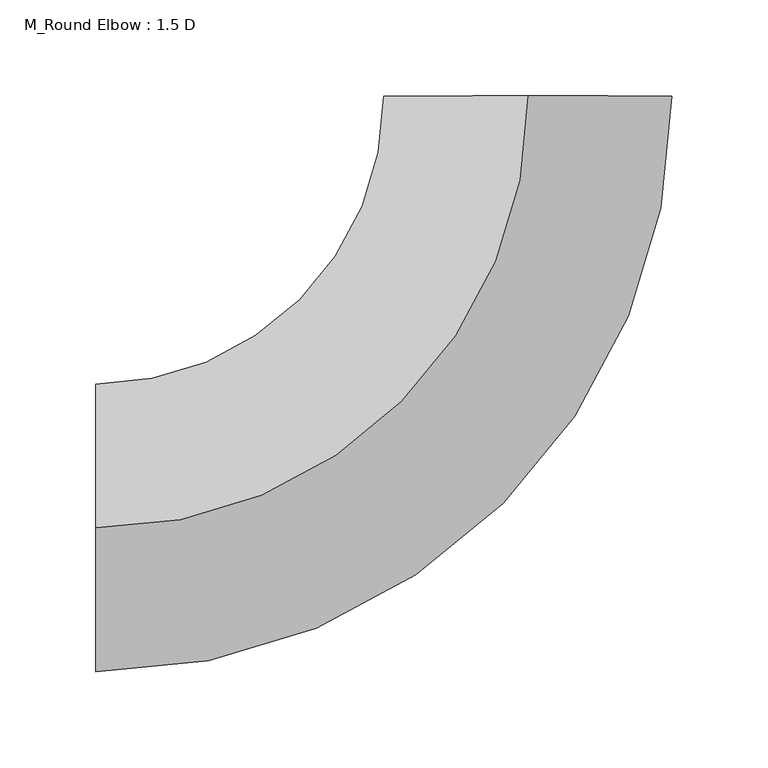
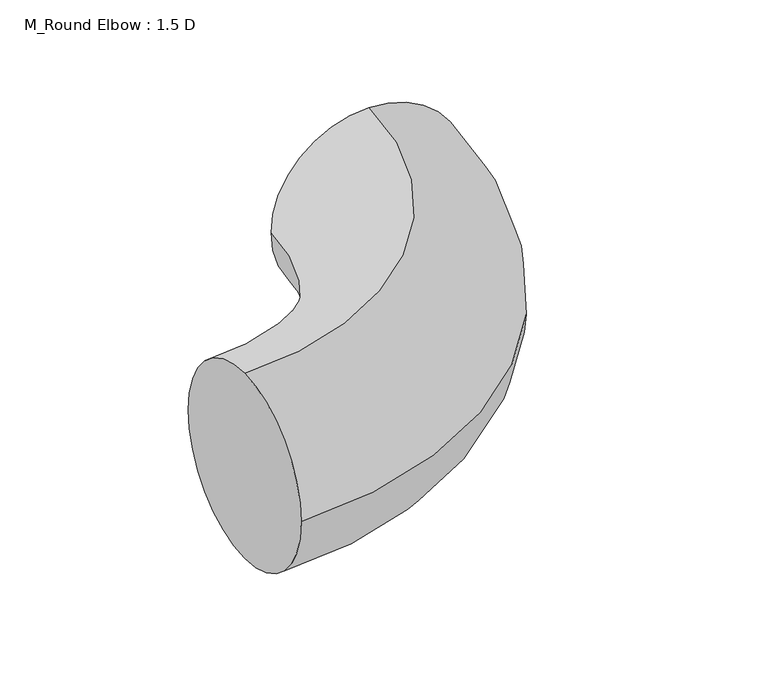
"""IFC4 building model written with IfcOpenShell, lengths in millimetres: duct fitting geometry, M_Round Elbow : 1.5 D."""

from ifc_helpers import new_model, si_unit, point, frame, origin, place, context, project, spatial, circle_curve, ellipse_curve, trimmed, source, transform, mapped, element, save
from ifc_brep_helpers import plane_surface, revolved_surface, advanced_brep


def m_round_elbow_1_5_d_fb64139c(model_context):
    return source(origin(), model_context, "Body", "AdvancedBrep", [
        advanced_brep(
        [(-225.0031071, 0.0, 75.0), (-225.0031071, 75.0, 0.0), (-225.0031071, 0.0, -75.0), (-225.0031071, -75.0, 0.0), (-0.0031071, 225.0031071, 75.0), (74.9968929, 225.0041428, 0.0), (-0.0031071, 225.0031071, -75.0), (-75.0031071, 225.0020714, 0.0)],
        [
            (0, 1, circle_curve(frame((-225.0031071, 0.0, 0.0), z_axis=(-1.0, 0.0, 0.0), x_axis=(0.0, 1.0, 0.0)), 75.0)),
            (1, 2, circle_curve(frame((-225.0031071, 0.0, 0.0), z_axis=(-1.0, 0.0, 0.0), x_axis=(0.0, 1.0, 0.0)), 75.0)),
            (2, 3, circle_curve(frame((-225.0031071, 0.0, 0.0), z_axis=(-1.0, 0.0, 0.0), x_axis=(0.0, 1.0, 0.0)), 75.0)),
            (3, 0, circle_curve(frame((-225.0031071, 0.0, 0.0), z_axis=(-1.0, 0.0, 0.0), x_axis=(0.0, 1.0, 0.0)), 75.0)),
            (4, 5, circle_curve(frame((-0.0031071, 225.0031071, 0.0), z_axis=(-1.3809308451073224e-05, 0.9999999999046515, 0.0), x_axis=(-0.9999999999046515, -1.3809308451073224e-05, 0.0)), 75.0)),
            (5, 6, circle_curve(frame((-0.0031071, 225.0031071, 0.0), z_axis=(-1.3809308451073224e-05, 0.9999999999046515, 0.0), x_axis=(-0.9999999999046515, -1.3809308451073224e-05, 0.0)), 75.0)),
            (6, 7, circle_curve(frame((-0.0031071, 225.0031071, 0.0), z_axis=(-1.3809308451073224e-05, 0.9999999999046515, 0.0), x_axis=(-0.9999999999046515, -1.3809308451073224e-05, 0.0)), 75.0)),
            (7, 4, circle_curve(frame((-0.0031071, 225.0031071, 0.0), z_axis=(-1.3809308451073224e-05, 0.9999999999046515, 0.0), x_axis=(-0.9999999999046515, -1.3809308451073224e-05, 0.0)), 75.0)),
            (7, 1, circle_curve(frame((-225.0031071, 225.0, 0.0), z_axis=(0.0, 0.0, -1.0), x_axis=(0.0, -1.0, 0.0)), 150.0)),
            (0, 4, circle_curve(frame((-225.0031071, 225.0, 75.0), z_axis=(0.0, 0.0, 1.0), x_axis=(0.0, -1.0, 0.0)), 225.0)),
            (6, 2, circle_curve(frame((-225.0031071, 225.0, -75.0), z_axis=(0.0, 0.0, -1.0), x_axis=(0.0, -1.0, 0.0)), 225.0)),
            (5, 3, circle_curve(frame((-225.0031071, 225.0, 0.0), z_axis=(0.0, 0.0, -1.0), x_axis=(0.0, -1.0, 0.0)), 300.0)),
        ],
        [
            plane_surface(frame((-225.0031071, 0.0, 0.0), z_axis=(-1.0, 0.0, 0.0), x_axis=(0.0, 0.0, 1.0))),
            plane_surface(frame((-0.0031071, 225.0031071, 0.0), z_axis=(-1.380930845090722e-05, 0.9999999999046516, 0.0), x_axis=(0.0, 0.0, 1.0))),
            revolved_surface(trimmed(ellipse_curve(frame((-225.0031071, 0.0, 0.0), z_axis=(-1.0, 0.0, 0.0), x_axis=(0.0, 1.0, 0.0)), 75.0, 75.0), [point((-225.0031071, 0.0, 75.0))], [point((-225.0031071, 75.0, 0.0))], True, "CARTESIAN"), (-225.0031071, 225.0, 0.0), (0.0, 0.0, 1.0)),
            revolved_surface(trimmed(ellipse_curve(frame((-225.0031071, 0.0, 0.0), z_axis=(-1.0, 0.0, 0.0), x_axis=(0.0, 1.0, 0.0)), 75.0, 75.0), [point((-225.0031071, 75.0, 0.0))], [point((-225.0031071, 0.0, -75.0))], True, "CARTESIAN"), (-225.0031071, 225.0, 0.0), (0.0, 0.0, 1.0)),
            revolved_surface(trimmed(ellipse_curve(frame((-225.0031071, 0.0, 0.0), z_axis=(-1.0, 0.0, 0.0), x_axis=(0.0, 1.0, 0.0)), 75.0, 75.0), [point((-225.0031071, 0.0, -75.0))], [point((-225.0031071, -75.0, 0.0))], True, "CARTESIAN"), (-225.0031071, 225.0, 0.0), (0.0, 0.0, 1.0)),
            revolved_surface(trimmed(ellipse_curve(frame((-225.0031071, 0.0, 0.0), z_axis=(-1.0, 0.0, 0.0), x_axis=(0.0, 1.0, 0.0)), 75.0, 75.0), [point((-225.0031071, -75.0, 0.0))], [point((-225.0031071, 0.0, 75.0))], True, "CARTESIAN"), (-225.0031071, 225.0, 0.0), (0.0, 0.0, 1.0)),
        ],
        [
            (0, [[1, 2, 3, 4]]),
            (1, [[5, 6, 7, 8]]),
            (2, [[9, -1, 10, -8]]),
            (3, [[11, -2, -9, -7]]),
            (4, [[12, -3, -11, -6]]),
            (5, [[-10, -4, -12, -5]]),
        ],
    ),
        advanced_brep(
        [(-225.0031071, 0.0, 75.0), (-225.0031071, 75.0, 0.0), (-225.0031071, 0.0, -75.0), (-225.0031071, -75.0, 0.0), (-0.0031071, 225.0031071, 75.0), (74.9968929, 225.0041428, 0.0), (-0.0031071, 225.0031071, -75.0), (-75.0031071, 225.0020714, 0.0)],
        [
            (0, 1, circle_curve(frame((-225.0031071, 0.0, 0.0), z_axis=(-1.0, 0.0, 0.0), x_axis=(0.0, 1.0, 0.0)), 75.0)),
            (1, 2, circle_curve(frame((-225.0031071, 0.0, 0.0), z_axis=(-1.0, 0.0, 0.0), x_axis=(0.0, 1.0, 0.0)), 75.0)),
            (2, 3, circle_curve(frame((-225.0031071, 0.0, 0.0), z_axis=(-1.0, 0.0, 0.0), x_axis=(0.0, 1.0, 0.0)), 75.0)),
            (3, 0, circle_curve(frame((-225.0031071, 0.0, 0.0), z_axis=(-1.0, 0.0, 0.0), x_axis=(0.0, 1.0, 0.0)), 75.0)),
            (4, 5, circle_curve(frame((-0.0031071, 225.0031071, 0.0), z_axis=(-1.3809308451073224e-05, 0.9999999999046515, 0.0), x_axis=(-0.9999999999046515, -1.3809308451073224e-05, 0.0)), 75.0)),
            (5, 6, circle_curve(frame((-0.0031071, 225.0031071, 0.0), z_axis=(-1.3809308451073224e-05, 0.9999999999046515, 0.0), x_axis=(-0.9999999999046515, -1.3809308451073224e-05, 0.0)), 75.0)),
            (6, 7, circle_curve(frame((-0.0031071, 225.0031071, 0.0), z_axis=(-1.3809308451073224e-05, 0.9999999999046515, 0.0), x_axis=(-0.9999999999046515, -1.3809308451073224e-05, 0.0)), 75.0)),
            (7, 4, circle_curve(frame((-0.0031071, 225.0031071, 0.0), z_axis=(-1.3809308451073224e-05, 0.9999999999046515, 0.0), x_axis=(-0.9999999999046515, -1.3809308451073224e-05, 0.0)), 75.0)),
            (7, 1, circle_curve(frame((-225.0031071, 225.0, 0.0), z_axis=(0.0, 0.0, -1.0), x_axis=(0.0, -1.0, 0.0)), 150.0)),
            (0, 4, circle_curve(frame((-225.0031071, 225.0, 75.0), z_axis=(0.0, 0.0, 1.0), x_axis=(0.0, -1.0, 0.0)), 225.0)),
            (6, 2, circle_curve(frame((-225.0031071, 225.0, -75.0), z_axis=(0.0, 0.0, -1.0), x_axis=(0.0, -1.0, 0.0)), 225.0)),
            (5, 3, circle_curve(frame((-225.0031071, 225.0, 0.0), z_axis=(0.0, 0.0, -1.0), x_axis=(0.0, -1.0, 0.0)), 300.0)),
        ],
        [
            plane_surface(frame((-225.0031071, 0.0, 0.0), z_axis=(-1.0, 0.0, 0.0), x_axis=(0.0, 0.0, 1.0))),
            plane_surface(frame((-0.0031071, 225.0031071, 0.0), z_axis=(-1.380930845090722e-05, 0.9999999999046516, 0.0), x_axis=(0.0, 0.0, 1.0))),
            revolved_surface(trimmed(ellipse_curve(frame((-225.0031071, 0.0, 0.0), z_axis=(-1.0, 0.0, 0.0), x_axis=(0.0, 1.0, 0.0)), 75.0, 75.0), [point((-225.0031071, 0.0, 75.0))], [point((-225.0031071, 75.0, 0.0))], True, "CARTESIAN"), (-225.0031071, 225.0, 0.0), (0.0, 0.0, 1.0)),
            revolved_surface(trimmed(ellipse_curve(frame((-225.0031071, 0.0, 0.0), z_axis=(-1.0, 0.0, 0.0), x_axis=(0.0, 1.0, 0.0)), 75.0, 75.0), [point((-225.0031071, 75.0, 0.0))], [point((-225.0031071, 0.0, -75.0))], True, "CARTESIAN"), (-225.0031071, 225.0, 0.0), (0.0, 0.0, 1.0)),
            revolved_surface(trimmed(ellipse_curve(frame((-225.0031071, 0.0, 0.0), z_axis=(-1.0, 0.0, 0.0), x_axis=(0.0, 1.0, 0.0)), 75.0, 75.0), [point((-225.0031071, 0.0, -75.0))], [point((-225.0031071, -75.0, 0.0))], True, "CARTESIAN"), (-225.0031071, 225.0, 0.0), (0.0, 0.0, 1.0)),
            revolved_surface(trimmed(ellipse_curve(frame((-225.0031071, 0.0, 0.0), z_axis=(-1.0, 0.0, 0.0), x_axis=(0.0, 1.0, 0.0)), 75.0, 75.0), [point((-225.0031071, -75.0, 0.0))], [point((-225.0031071, 0.0, 75.0))], True, "CARTESIAN"), (-225.0031071, 225.0, 0.0), (0.0, 0.0, 1.0)),
        ],
        [
            (0, [[1, 2, 3, 4]]),
            (1, [[5, 6, 7, 8]]),
            (2, [[9, -1, 10, -8]]),
            (3, [[11, -2, -9, -7]]),
            (4, [[12, -3, -11, -6]]),
            (5, [[-10, -4, -12, -5]]),
        ],
    ),
        advanced_brep(
        [(-225.0031071, 0.0, 75.0), (-225.0031071, 75.0, 0.0), (-225.0031071, 0.0, -75.0), (-225.0031071, -75.0, 0.0), (-0.0031071, 225.0031071, 75.0), (74.9968929, 225.0041428, 0.0), (-0.0031071, 225.0031071, -75.0), (-75.0031071, 225.0020714, 0.0)],
        [
            (0, 1, circle_curve(frame((-225.0031071, 0.0, 0.0), z_axis=(-1.0, 0.0, 0.0), x_axis=(0.0, 1.0, 0.0)), 75.0)),
            (1, 2, circle_curve(frame((-225.0031071, 0.0, 0.0), z_axis=(-1.0, 0.0, 0.0), x_axis=(0.0, 1.0, 0.0)), 75.0)),
            (2, 3, circle_curve(frame((-225.0031071, 0.0, 0.0), z_axis=(-1.0, 0.0, 0.0), x_axis=(0.0, 1.0, 0.0)), 75.0)),
            (3, 0, circle_curve(frame((-225.0031071, 0.0, 0.0), z_axis=(-1.0, 0.0, 0.0), x_axis=(0.0, 1.0, 0.0)), 75.0)),
            (4, 5, circle_curve(frame((-0.0031071, 225.0031071, 0.0), z_axis=(-1.3809308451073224e-05, 0.9999999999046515, 0.0), x_axis=(-0.9999999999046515, -1.3809308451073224e-05, 0.0)), 75.0)),
            (5, 6, circle_curve(frame((-0.0031071, 225.0031071, 0.0), z_axis=(-1.3809308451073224e-05, 0.9999999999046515, 0.0), x_axis=(-0.9999999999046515, -1.3809308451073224e-05, 0.0)), 75.0)),
            (6, 7, circle_curve(frame((-0.0031071, 225.0031071, 0.0), z_axis=(-1.3809308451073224e-05, 0.9999999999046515, 0.0), x_axis=(-0.9999999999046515, -1.3809308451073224e-05, 0.0)), 75.0)),
            (7, 4, circle_curve(frame((-0.0031071, 225.0031071, 0.0), z_axis=(-1.3809308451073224e-05, 0.9999999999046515, 0.0), x_axis=(-0.9999999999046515, -1.3809308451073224e-05, 0.0)), 75.0)),
            (7, 1, circle_curve(frame((-225.0031071, 225.0, 0.0), z_axis=(0.0, 0.0, -1.0), x_axis=(0.0, -1.0, 0.0)), 150.0)),
            (0, 4, circle_curve(frame((-225.0031071, 225.0, 75.0), z_axis=(0.0, 0.0, 1.0), x_axis=(0.0, -1.0, 0.0)), 225.0)),
            (6, 2, circle_curve(frame((-225.0031071, 225.0, -75.0), z_axis=(0.0, 0.0, -1.0), x_axis=(0.0, -1.0, 0.0)), 225.0)),
            (5, 3, circle_curve(frame((-225.0031071, 225.0, 0.0), z_axis=(0.0, 0.0, -1.0), x_axis=(0.0, -1.0, 0.0)), 300.0)),
        ],
        [
            plane_surface(frame((-225.0031071, 0.0, 0.0), z_axis=(-1.0, 0.0, 0.0), x_axis=(0.0, 0.0, 1.0))),
            plane_surface(frame((-0.0031071, 225.0031071, 0.0), z_axis=(-1.380930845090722e-05, 0.9999999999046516, 0.0), x_axis=(0.0, 0.0, 1.0))),
            revolved_surface(trimmed(ellipse_curve(frame((-225.0031071, 0.0, 0.0), z_axis=(-1.0, 0.0, 0.0), x_axis=(0.0, 1.0, 0.0)), 75.0, 75.0), [point((-225.0031071, 0.0, 75.0))], [point((-225.0031071, 75.0, 0.0))], True, "CARTESIAN"), (-225.0031071, 225.0, 0.0), (0.0, 0.0, 1.0)),
            revolved_surface(trimmed(ellipse_curve(frame((-225.0031071, 0.0, 0.0), z_axis=(-1.0, 0.0, 0.0), x_axis=(0.0, 1.0, 0.0)), 75.0, 75.0), [point((-225.0031071, 75.0, 0.0))], [point((-225.0031071, 0.0, -75.0))], True, "CARTESIAN"), (-225.0031071, 225.0, 0.0), (0.0, 0.0, 1.0)),
            revolved_surface(trimmed(ellipse_curve(frame((-225.0031071, 0.0, 0.0), z_axis=(-1.0, 0.0, 0.0), x_axis=(0.0, 1.0, 0.0)), 75.0, 75.0), [point((-225.0031071, 0.0, -75.0))], [point((-225.0031071, -75.0, 0.0))], True, "CARTESIAN"), (-225.0031071, 225.0, 0.0), (0.0, 0.0, 1.0)),
            revolved_surface(trimmed(ellipse_curve(frame((-225.0031071, 0.0, 0.0), z_axis=(-1.0, 0.0, 0.0), x_axis=(0.0, 1.0, 0.0)), 75.0, 75.0), [point((-225.0031071, -75.0, 0.0))], [point((-225.0031071, 0.0, 75.0))], True, "CARTESIAN"), (-225.0031071, 225.0, 0.0), (0.0, 0.0, 1.0)),
        ],
        [
            (0, [[1, 2, 3, 4]]),
            (1, [[5, 6, 7, 8]]),
            (2, [[9, -1, 10, -8]]),
            (3, [[11, -2, -9, -7]]),
            (4, [[12, -3, -11, -6]]),
            (5, [[-10, -4, -12, -5]]),
        ],
    ),
    ])


if __name__ == "__main__":
    model = new_model("IFC4")
    model_context = context("Model", 3, world=origin())
    ifc_project = project(units=[si_unit("LENGTHUNIT", "METRE", prefix="MILLI")], contexts=[model_context])
    site = spatial("IfcSite", under=ifc_project)
    building = spatial("IfcBuilding", under=site)
    placement = place(None, origin())
    m_round_elbow_1_5_d_shape = m_round_elbow_1_5_d_fb64139c(model_context)
    element("IfcDuctFitting", 1, ObjectType="M_Round Elbow : 1.5 D", at=placement, inside=building, context=model_context, shape_type="MappedRepresentation", body=[
        mapped(m_round_elbow_1_5_d_shape, transform((0.0, 0.0, 0.0), x_axis=(1.0, 0.0, 0.0), y_axis=(0.0, 1.0, 0.0), z_axis=(0.0, 0.0, 1.0))),
    ])
    save(model, "model.ifc")
